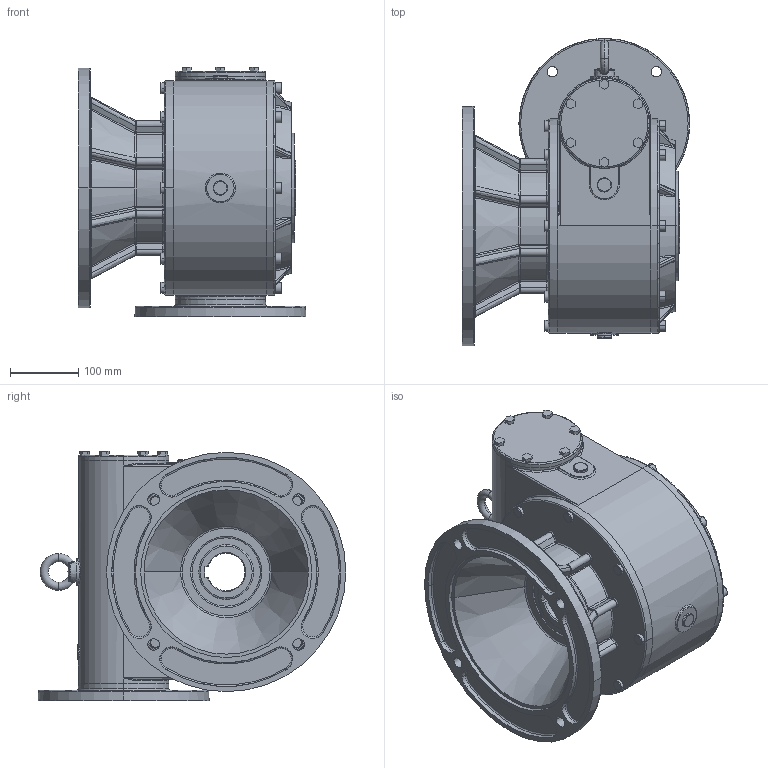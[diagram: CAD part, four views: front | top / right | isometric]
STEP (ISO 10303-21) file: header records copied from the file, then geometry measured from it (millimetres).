
FILE_DESCRIPTION (( 'STEP AP214' ), '1' );
FILE_NAME ('Sestava MRT150-FFR.STEP', '2007-07-04T11:31:24', ( '' ), ( '' ), 'SwSTEP 2.0', 'SolidWorks 2004146', '' );
FILE_SCHEMA (( 'AUTOMOTIVE_DESIGN' ));
Length unit declared in the file: millimetre
Products named in the file (4): Skrin MRT150_Mrt150-215-AP100; Pøíruba 150 FF_Výchozí; Pøíruba 150FT_Výchozí; Sestava MRT150-FFR
Assembly tree (3 placements, depth 2):
  Sestava MRT150-FFR
    Pøíruba 150 FF_Výchozí
    Skrin MRT150_Mrt150-215-AP100
    Pøíruba 150FT_Výchozí
Bounding box: 333 x 450 x 364.3 mm (x, y, z)
Volume: 20185230.6 mm3; surface area: 1175486.9 mm2
Topology: 3 solids, 3 shells, 990 faces, 2326 edges, 1367 vertices
Faces by surface type: torus 266, cylinder 205, plane 177, bspline 164, sphere 89, cone 89
Entity records: 124280 total; most frequent: CARTESIAN_POINT 101770, DIRECTION 4908, ORIENTED_EDGE 4612, EDGE_CURVE 2306, AXIS2_PLACEMENT_3D 2176, VERTEX_POINT 1363, CIRCLE 1344, EDGE_LOOP 1063
